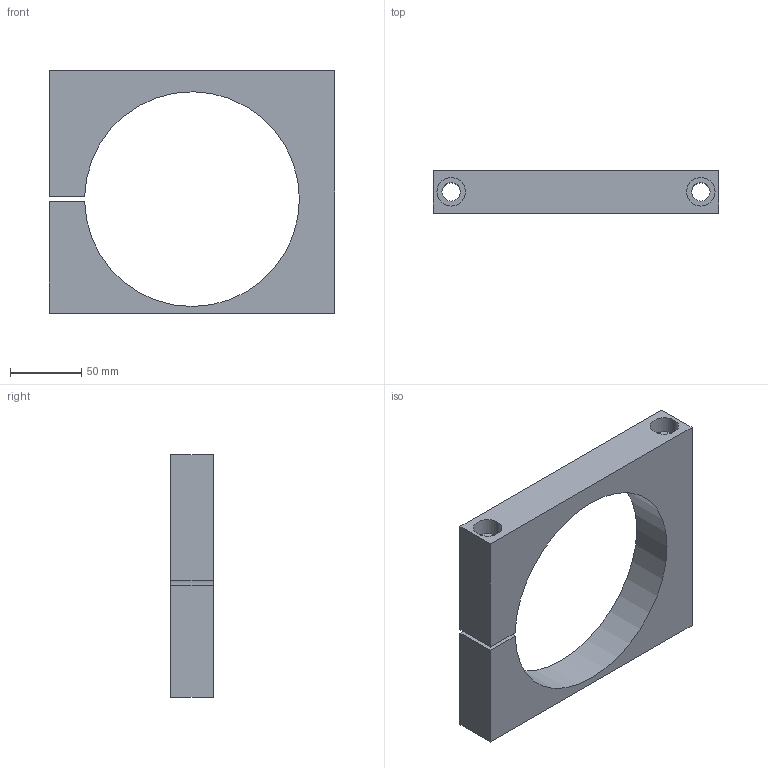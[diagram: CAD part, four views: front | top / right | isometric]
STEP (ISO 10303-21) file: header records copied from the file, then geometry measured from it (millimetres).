
FILE_DESCRIPTION(('CATIA V5 STEP Exchange'),'2;1');
FILE_NAME('W:\CATALOGO GENERAL 2018\FICHEROS CAD\023-BRIDAS\06-FI\FI 150-1.stp','2017-11-27T09:27:24+00:00',('none'),('none'),'CATIA Version 5 Release 17 (IN-10)','CATIA V5 STEP AP203','none');
FILE_SCHEMA(('CONFIG_CONTROL_DESIGN'));
Length unit declared in the file: millimetre
Products named in the file (1): FI  150-1
Bounding box: 200 x 30 x 170 mm (x, y, z)
Volume: 435003.1 mm3; surface area: 83457.4 mm2
Topology: 1 solids, 1 shells, 22 faces, 54 edges, 36 vertices
Faces by surface type: plane 11, cylinder 11
Entity records: 652 total; most frequent: ORIENTED_EDGE 108, CARTESIAN_POINT 105, DIRECTION 82, EDGE_CURVE 54, AXIS2_PLACEMENT_3D 37, VERTEX_POINT 36, VECTOR 32, LINE 32
